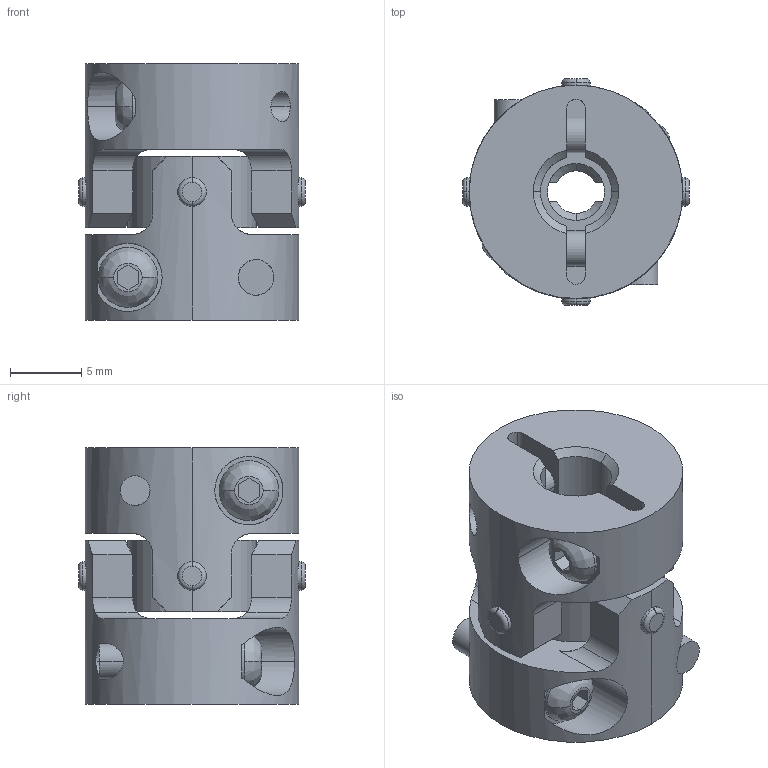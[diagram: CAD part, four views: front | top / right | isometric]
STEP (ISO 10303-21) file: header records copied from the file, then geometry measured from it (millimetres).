
FILE_DESCRIPTION((''),'2;1');
FILE_NAME('UA-15C-5×6.stp','2017-07-12T22:28:29',(''),(''),'AutoCAD STEP 2000i','AutoCAD 2000i',', , ');
FILE_SCHEMA(('CONFIG_CONTROL_DESIGN'));
Length unit declared in the file: millimetre
Products named in the file (7): UA-15C-3×6; 忣兜1; UA-1502-D06; BTN-M2.5; UA-1502-D03-1; UA-1502-D03; UA15-SEN
Assembly tree (8 placements, depth 3):
  UA-15C-3×6
    忣兜1
    UA-1502-D06
      BTN-M2.5
    UA-1502-D03-1
      BTN-M2.5
    UA-1502-D03
      BTN-M2.5
    UA15-SEN
Bounding box: 15.94 x 15.94 x 18 mm (x, y, z)
Volume: 2310.8 mm3; surface area: 2360.7 mm2
Topology: 1 solids, 1 shells, 210 faces, 558 edges, 364 vertices
Faces by surface type: cylinder 100, plane 78, cone 16, bspline 8, torus 8
Entity records: 8093 total; most frequent: CARTESIAN_POINT 2701, ORIENTED_EDGE 1116, DIRECTION 1084, EDGE_CURVE 558, AXIS2_PLACEMENT_3D 419, VERTEX_POINT 364, VECTOR 246, LINE 246
